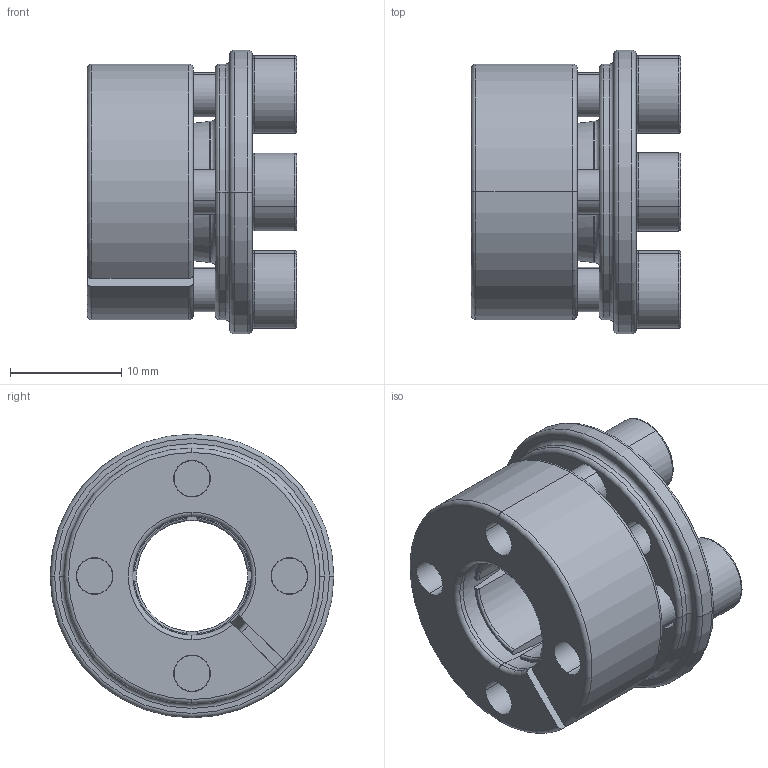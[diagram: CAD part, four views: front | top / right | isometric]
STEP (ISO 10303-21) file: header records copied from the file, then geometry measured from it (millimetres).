
FILE_DESCRIPTION (( 'STEP AP203' ), '1' );
FILE_NAME ('SAPA-10-23-45C.STEP', '2013-01-22T05:05:55', ( '' ), ( '' ), 'SwSTEP 2.0', 'SolidWorks 2012', '' );
FILE_SCHEMA (( 'CONFIG_CONTROL_DESIGN' ));
Length unit declared in the file: millimetre
Products named in the file (1): SAPA-10-23-45C
Bounding box: 18.8 x 25.5 x 25.5 mm (x, y, z)
Volume: 4900.6 mm3; surface area: 4007.7 mm2
Topology: 1 solids, 1 shells, 218 faces, 547 edges, 328 vertices
Faces by surface type: plane 83, cylinder 58, torus 56, cone 21
Entity records: 6715 total; most frequent: CARTESIAN_POINT 1304, DIRECTION 1212, ORIENTED_EDGE 1078, EDGE_CURVE 539, AXIS2_PLACEMENT_3D 504, VERTEX_POINT 328, CIRCLE 285, EDGE_LOOP 245
